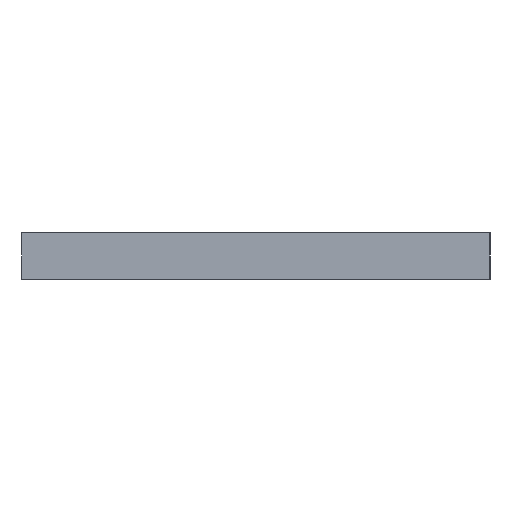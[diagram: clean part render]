
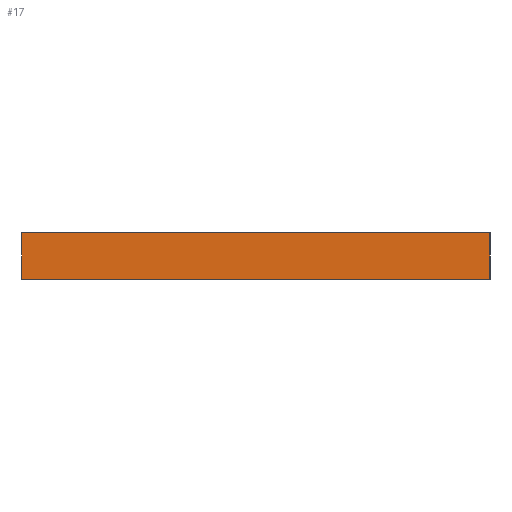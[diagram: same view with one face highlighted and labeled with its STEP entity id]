
A CAD part, left-side view. The second image highlights one B-rep face of the part: STEP entity #17.
In plain terms, the highlighted planar face has unit normal (-1, 0, 0).
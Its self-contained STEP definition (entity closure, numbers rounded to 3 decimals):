
#17 = ADVANCED_FACE('',(#18),#32,.F.);
#18 = FACE_BOUND('',#19,.F.);
#19 = EDGE_LOOP('',(#20,#55,#83,#111));
#20 = ORIENTED_EDGE('',*,*,#21,.F.);
#21 = EDGE_CURVE('',#22,#24,#26,.T.);
#22 = VERTEX_POINT('',#23);
#23 = CARTESIAN_POINT('',(650.,-30.,-153.));
#24 = VERTEX_POINT('',#25);
#25 = CARTESIAN_POINT('',(650.,-30.,-147.));
#26 = SURFACE_CURVE('',#27,(#31,#43),.PCURVE_S1.);
#27 = LINE('',#28,#29);
#28 = CARTESIAN_POINT('',(650.,-30.,-153.));
#29 = VECTOR('',#30,1.);
#30 = DIRECTION('',(0.,0.,1.));
#31 = PCURVE('',#32,#37);
#32 = PLANE('',#33);
#33 = AXIS2_PLACEMENT_3D('',#34,#35,#36);
#34 = CARTESIAN_POINT('',(650.,-30.,-153.));
#35 = DIRECTION('',(1.,0.,0.));
#36 = DIRECTION('',(0.,0.,1.));
#37 = DEFINITIONAL_REPRESENTATION('',(#38),#42);
#38 = LINE('',#39,#40);
#39 = CARTESIAN_POINT('',(0.,0.));
#40 = VECTOR('',#41,1.);
#41 = DIRECTION('',(1.,0.));
#42 = ( GEOMETRIC_REPRESENTATION_CONTEXT(2) 
PARAMETRIC_REPRESENTATION_CONTEXT() REPRESENTATION_CONTEXT('2D SPACE',''
  ) );
#43 = PCURVE('',#44,#49);
#44 = PLANE('',#45);
#45 = AXIS2_PLACEMENT_3D('',#46,#47,#48);
#46 = CARTESIAN_POINT('',(650.,-30.,-153.));
#47 = DIRECTION('',(0.,1.,0.));
#48 = DIRECTION('',(0.,0.,1.));
#49 = DEFINITIONAL_REPRESENTATION('',(#50),#54);
#50 = LINE('',#51,#52);
#51 = CARTESIAN_POINT('',(0.,0.));
#52 = VECTOR('',#53,1.);
#53 = DIRECTION('',(1.,0.));
#54 = ( GEOMETRIC_REPRESENTATION_CONTEXT(2) 
PARAMETRIC_REPRESENTATION_CONTEXT() REPRESENTATION_CONTEXT('2D SPACE',''
  ) );
#55 = ORIENTED_EDGE('',*,*,#56,.T.);
#56 = EDGE_CURVE('',#22,#57,#59,.T.);
#57 = VERTEX_POINT('',#58);
#58 = CARTESIAN_POINT('',(650.,30.,-153.));
#59 = SURFACE_CURVE('',#60,(#64,#71),.PCURVE_S1.);
#60 = LINE('',#61,#62);
#61 = CARTESIAN_POINT('',(650.,-30.,-153.));
#62 = VECTOR('',#63,1.);
#63 = DIRECTION('',(0.,1.,0.));
#64 = PCURVE('',#32,#65);
#65 = DEFINITIONAL_REPRESENTATION('',(#66),#70);
#66 = LINE('',#67,#68);
#67 = CARTESIAN_POINT('',(0.,0.));
#68 = VECTOR('',#69,1.);
#69 = DIRECTION('',(0.,-1.));
#70 = ( GEOMETRIC_REPRESENTATION_CONTEXT(2) 
PARAMETRIC_REPRESENTATION_CONTEXT() REPRESENTATION_CONTEXT('2D SPACE',''
  ) );
#71 = PCURVE('',#72,#77);
#72 = PLANE('',#73);
#73 = AXIS2_PLACEMENT_3D('',#74,#75,#76);
#74 = CARTESIAN_POINT('',(650.,-30.,-153.));
#75 = DIRECTION('',(0.,0.,1.));
#76 = DIRECTION('',(1.,0.,0.));
#77 = DEFINITIONAL_REPRESENTATION('',(#78),#82);
#78 = LINE('',#79,#80);
#79 = CARTESIAN_POINT('',(0.,0.));
#80 = VECTOR('',#81,1.);
#81 = DIRECTION('',(0.,1.));
#82 = ( GEOMETRIC_REPRESENTATION_CONTEXT(2) 
PARAMETRIC_REPRESENTATION_CONTEXT() REPRESENTATION_CONTEXT('2D SPACE',''
  ) );
#83 = ORIENTED_EDGE('',*,*,#84,.T.);
#84 = EDGE_CURVE('',#57,#85,#87,.T.);
#85 = VERTEX_POINT('',#86);
#86 = CARTESIAN_POINT('',(650.,30.,-147.));
#87 = SURFACE_CURVE('',#88,(#92,#99),.PCURVE_S1.);
#88 = LINE('',#89,#90);
#89 = CARTESIAN_POINT('',(650.,30.,-153.));
#90 = VECTOR('',#91,1.);
#91 = DIRECTION('',(0.,0.,1.));
#92 = PCURVE('',#32,#93);
#93 = DEFINITIONAL_REPRESENTATION('',(#94),#98);
#94 = LINE('',#95,#96);
#95 = CARTESIAN_POINT('',(0.,-60.));
#96 = VECTOR('',#97,1.);
#97 = DIRECTION('',(1.,0.));
#98 = ( GEOMETRIC_REPRESENTATION_CONTEXT(2) 
PARAMETRIC_REPRESENTATION_CONTEXT() REPRESENTATION_CONTEXT('2D SPACE',''
  ) );
#99 = PCURVE('',#100,#105);
#100 = PLANE('',#101);
#101 = AXIS2_PLACEMENT_3D('',#102,#103,#104);
#102 = CARTESIAN_POINT('',(650.,30.,-153.));
#103 = DIRECTION('',(0.,1.,0.));
#104 = DIRECTION('',(0.,0.,1.));
#105 = DEFINITIONAL_REPRESENTATION('',(#106),#110);
#106 = LINE('',#107,#108);
#107 = CARTESIAN_POINT('',(0.,0.));
#108 = VECTOR('',#109,1.);
#109 = DIRECTION('',(1.,0.));
#110 = ( GEOMETRIC_REPRESENTATION_CONTEXT(2) 
PARAMETRIC_REPRESENTATION_CONTEXT() REPRESENTATION_CONTEXT('2D SPACE',''
  ) );
#111 = ORIENTED_EDGE('',*,*,#112,.F.);
#112 = EDGE_CURVE('',#24,#85,#113,.T.);
#113 = SURFACE_CURVE('',#114,(#118,#125),.PCURVE_S1.);
#114 = LINE('',#115,#116);
#115 = CARTESIAN_POINT('',(650.,-30.,-147.));
#116 = VECTOR('',#117,1.);
#117 = DIRECTION('',(0.,1.,0.));
#118 = PCURVE('',#32,#119);
#119 = DEFINITIONAL_REPRESENTATION('',(#120),#124);
#120 = LINE('',#121,#122);
#121 = CARTESIAN_POINT('',(6.,0.));
#122 = VECTOR('',#123,1.);
#123 = DIRECTION('',(0.,-1.));
#124 = ( GEOMETRIC_REPRESENTATION_CONTEXT(2) 
PARAMETRIC_REPRESENTATION_CONTEXT() REPRESENTATION_CONTEXT('2D SPACE',''
  ) );
#125 = PCURVE('',#126,#131);
#126 = PLANE('',#127);
#127 = AXIS2_PLACEMENT_3D('',#128,#129,#130);
#128 = CARTESIAN_POINT('',(650.,-30.,-147.));
#129 = DIRECTION('',(0.,0.,1.));
#130 = DIRECTION('',(1.,0.,0.));
#131 = DEFINITIONAL_REPRESENTATION('',(#132),#136);
#132 = LINE('',#133,#134);
#133 = CARTESIAN_POINT('',(0.,0.));
#134 = VECTOR('',#135,1.);
#135 = DIRECTION('',(0.,1.));
#136 = ( GEOMETRIC_REPRESENTATION_CONTEXT(2) 
PARAMETRIC_REPRESENTATION_CONTEXT() REPRESENTATION_CONTEXT('2D SPACE',''
  ) );
